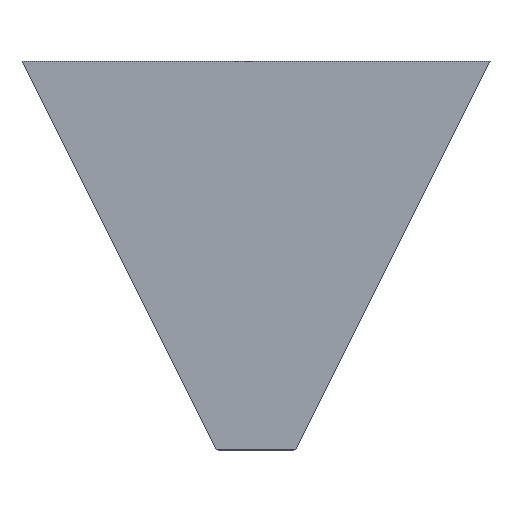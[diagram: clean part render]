
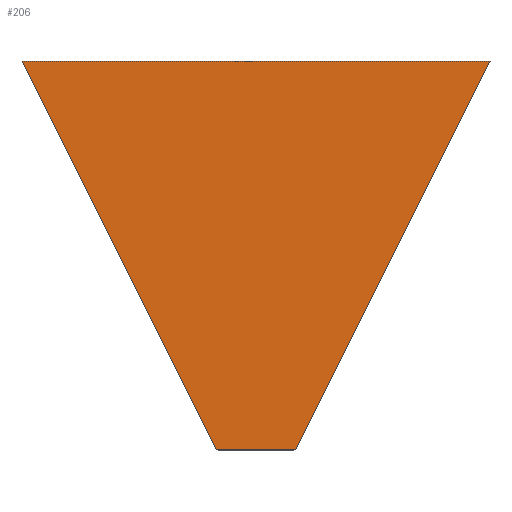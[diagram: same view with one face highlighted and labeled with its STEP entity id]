
A CAD part, top view. The second image highlights one B-rep face of the part: STEP entity #206.
In plain terms, the highlighted planar face has unit normal (0, 0, 1).
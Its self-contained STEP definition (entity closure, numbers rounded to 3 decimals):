
#44 = PLANE('',#45);
#45 = AXIS2_PLACEMENT_3D('',#46,#47,#48);
#46 = CARTESIAN_POINT('',(-490.011,707.506,13.));
#47 = DIRECTION('',(-0.707,-0.354,-0.612));
#48 = DIRECTION('',(0.655,0.,-0.756));
#71 = PLANE('',#72);
#72 = AXIS2_PLACEMENT_3D('',#73,#74,#75);
#73 = CARTESIAN_POINT('',(0.,1407.513,
    13.012));
#74 = DIRECTION('',(0.,0.866,-0.5));
#75 = DIRECTION('',(0.,0.5,0.866));
#98 = PLANE('',#99);
#99 = AXIS2_PLACEMENT_3D('',#100,#101,#102);
#100 = CARTESIAN_POINT('',(490.011,707.506,13.));
#101 = DIRECTION('',(0.707,-0.354,-0.612));
#102 = DIRECTION('',(0.655,0.,0.756)
  );
#123 = PLANE('',#124);
#124 = AXIS2_PLACEMENT_3D('',#125,#126,#127);
#125 = CARTESIAN_POINT('',(0.,7.547,
    13.072));
#126 = DIRECTION('',(-0.,-0.866,0.5));
#127 = DIRECTION('',(0.,-0.5,-0.866));
#139 = VERTEX_POINT('',#140);
#140 = CARTESIAN_POINT('',(143.475,9.238,16.));
#160 = EDGE_CURVE('',#161,#139,#163,.T.);
#161 = VERTEX_POINT('',#162);
#162 = CARTESIAN_POINT('',(-143.475,9.238,16.));
#163 = SURFACE_CURVE('',#164,(#168,#174),.PCURVE_S1.);
#164 = LINE('',#165,#166);
#165 = CARTESIAN_POINT('',(-143.475,9.238,16.));
#166 = VECTOR('',#167,1.);
#167 = DIRECTION('',(1.,0.,0.));
#168 = PCURVE('',#123,#169);
#169 = DEFINITIONAL_REPRESENTATION('',(#170),#173);
#170 = B_SPLINE_CURVE_WITH_KNOTS('',1,(#171,#172),.UNSPECIFIED.,.F.,.F.,
  (2,2),(0.,286.95),.PIECEWISE_BEZIER_KNOTS.);
#171 = CARTESIAN_POINT('',(-3.381,-143.475));
#172 = CARTESIAN_POINT('',(-3.381,143.475));
#173 = ( GEOMETRIC_REPRESENTATION_CONTEXT(2) 
PARAMETRIC_REPRESENTATION_CONTEXT() REPRESENTATION_CONTEXT('2D SPACE',''
  ) );
#174 = PCURVE('',#175,#180);
#175 = PLANE('',#176);
#176 = AXIS2_PLACEMENT_3D('',#177,#178,#179);
#177 = CARTESIAN_POINT('',(0.,901.229,16.));
#178 = DIRECTION('',(0.,0.,1.));
#179 = DIRECTION('',(1.,0.,-0.));
#180 = DEFINITIONAL_REPRESENTATION('',(#181),#185);
#181 = LINE('',#182,#183);
#182 = CARTESIAN_POINT('',(-143.475,-891.991));
#183 = VECTOR('',#184,1.);
#184 = DIRECTION('',(1.,0.));
#185 = ( GEOMETRIC_REPRESENTATION_CONTEXT(2) 
PARAMETRIC_REPRESENTATION_CONTEXT() REPRESENTATION_CONTEXT('2D SPACE',''
  ) );
#206 = ADVANCED_FACE('',(#207),#175,.T.);
#207 = FACE_BOUND('',#208,.T.);
#208 = EDGE_LOOP('',(#209,#210,#232,#254));
#209 = ORIENTED_EDGE('',*,*,#160,.T.);
#210 = ORIENTED_EDGE('',*,*,#211,.T.);
#211 = EDGE_CURVE('',#139,#212,#214,.T.);
#212 = VERTEX_POINT('',#213);
#213 = CARTESIAN_POINT('',(843.475,1409.238,16.));
#214 = SURFACE_CURVE('',#215,(#219,#226),.PCURVE_S1.);
#215 = LINE('',#216,#217);
#216 = CARTESIAN_POINT('',(143.475,9.238,16.));
#217 = VECTOR('',#218,1.);
#218 = DIRECTION('',(0.447,0.894,0.));
#219 = PCURVE('',#175,#220);
#220 = DEFINITIONAL_REPRESENTATION('',(#221),#225);
#221 = LINE('',#222,#223);
#222 = CARTESIAN_POINT('',(143.475,-891.991));
#223 = VECTOR('',#224,1.);
#224 = DIRECTION('',(0.447,0.894));
#225 = ( GEOMETRIC_REPRESENTATION_CONTEXT(2) 
PARAMETRIC_REPRESENTATION_CONTEXT() REPRESENTATION_CONTEXT('2D SPACE',''
  ) );
#226 = PCURVE('',#98,#227);
#227 = DEFINITIONAL_REPRESENTATION('',(#228),#231);
#228 = B_SPLINE_CURVE_WITH_KNOTS('',1,(#229,#230),.UNSPECIFIED.,.F.,.F.,
  (2,2),(0.,1565.248),.PIECEWISE_BEZIER_KNOTS.);
#229 = CARTESIAN_POINT('',(-224.593,746.48));
#230 = CARTESIAN_POINT('',(233.664,-750.183));
#231 = ( GEOMETRIC_REPRESENTATION_CONTEXT(2) 
PARAMETRIC_REPRESENTATION_CONTEXT() REPRESENTATION_CONTEXT('2D SPACE',''
  ) );
#232 = ORIENTED_EDGE('',*,*,#233,.T.);
#233 = EDGE_CURVE('',#212,#234,#236,.T.);
#234 = VERTEX_POINT('',#235);
#235 = CARTESIAN_POINT('',(-843.475,1409.238,16.));
#236 = SURFACE_CURVE('',#237,(#241,#248),.PCURVE_S1.);
#237 = LINE('',#238,#239);
#238 = CARTESIAN_POINT('',(843.475,1409.238,16.));
#239 = VECTOR('',#240,1.);
#240 = DIRECTION('',(-1.,0.,0.));
#241 = PCURVE('',#175,#242);
#242 = DEFINITIONAL_REPRESENTATION('',(#243),#247);
#243 = LINE('',#244,#245);
#244 = CARTESIAN_POINT('',(843.475,508.009));
#245 = VECTOR('',#246,1.);
#246 = DIRECTION('',(-1.,0.));
#247 = ( GEOMETRIC_REPRESENTATION_CONTEXT(2) 
PARAMETRIC_REPRESENTATION_CONTEXT() REPRESENTATION_CONTEXT('2D SPACE',''
  ) );
#248 = PCURVE('',#71,#249);
#249 = DEFINITIONAL_REPRESENTATION('',(#250),#253);
#250 = B_SPLINE_CURVE_WITH_KNOTS('',1,(#251,#252),.UNSPECIFIED.,.F.,.F.,
  (2,2),(0.,1686.95),.PIECEWISE_BEZIER_KNOTS.);
#251 = CARTESIAN_POINT('',(3.45,843.475));
#252 = CARTESIAN_POINT('',(3.45,-843.475));
#253 = ( GEOMETRIC_REPRESENTATION_CONTEXT(2) 
PARAMETRIC_REPRESENTATION_CONTEXT() REPRESENTATION_CONTEXT('2D SPACE',''
  ) );
#254 = ORIENTED_EDGE('',*,*,#255,.T.);
#255 = EDGE_CURVE('',#234,#161,#256,.T.);
#256 = SURFACE_CURVE('',#257,(#261,#268),.PCURVE_S1.);
#257 = LINE('',#258,#259);
#258 = CARTESIAN_POINT('',(-843.475,1409.238,16.));
#259 = VECTOR('',#260,1.);
#260 = DIRECTION('',(0.447,-0.894,0.));
#261 = PCURVE('',#175,#262);
#262 = DEFINITIONAL_REPRESENTATION('',(#263),#267);
#263 = LINE('',#264,#265);
#264 = CARTESIAN_POINT('',(-843.475,508.009));
#265 = VECTOR('',#266,1.);
#266 = DIRECTION('',(0.447,-0.894));
#267 = ( GEOMETRIC_REPRESENTATION_CONTEXT(2) 
PARAMETRIC_REPRESENTATION_CONTEXT() REPRESENTATION_CONTEXT('2D SPACE',''
  ) );
#268 = PCURVE('',#44,#269);
#269 = DEFINITIONAL_REPRESENTATION('',(#270),#273);
#270 = B_SPLINE_CURVE_WITH_KNOTS('',1,(#271,#272),.UNSPECIFIED.,.F.,.F.,
  (2,2),(0.,1565.248),.PIECEWISE_BEZIER_KNOTS.);
#271 = CARTESIAN_POINT('',(-233.664,-750.183));
#272 = CARTESIAN_POINT('',(224.593,746.48));
#273 = ( GEOMETRIC_REPRESENTATION_CONTEXT(2) 
PARAMETRIC_REPRESENTATION_CONTEXT() REPRESENTATION_CONTEXT('2D SPACE',''
  ) );
